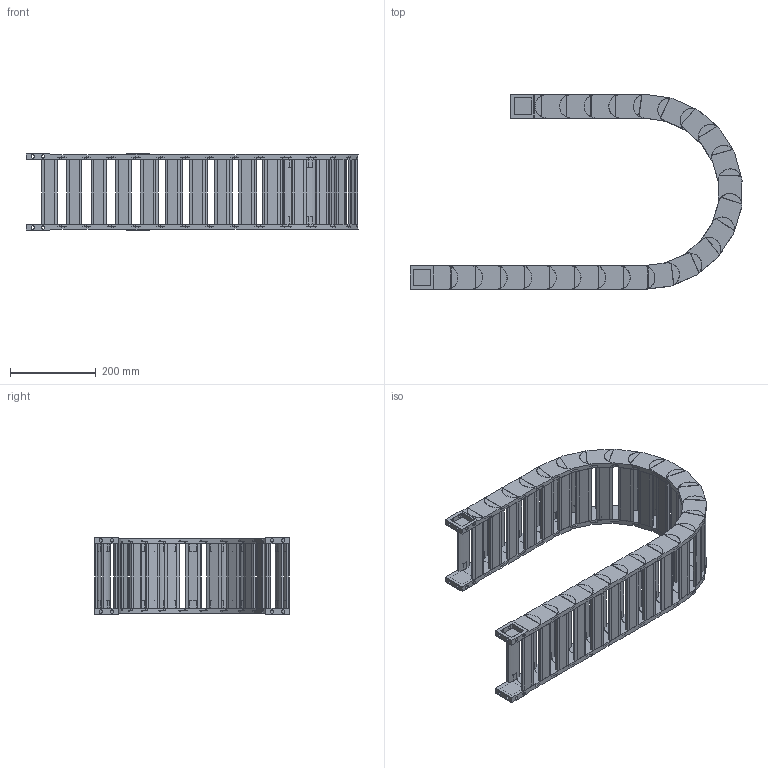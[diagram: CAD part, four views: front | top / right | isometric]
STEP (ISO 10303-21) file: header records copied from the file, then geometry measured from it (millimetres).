
FILE_DESCRIPTION((''),'2;1');
FILE_NAME('HD35-R200-ZPT_ASM','2022-06-17T14:08:54',('admin'),(''),'CREO PARAMETRIC BY PTC INC, 2021164','CREO PARAMETRIC BY PTC INC, 2021164','');
FILE_SCHEMA(('CONFIG_CONTROL_DESIGN','GEOMETRIC_VALIDATION_PROPERTIES_MIM'));
Length unit declared in the file: millimetre
Products named in the file (6): HD35; 35-600001; HD35_ASM; 35-TL_11; 35-WL; HD35-R200-ZPT_ASM
Assembly tree (29 placements, depth 3):
  HD35-R200-ZPT_ASM
    HD35_ASM  x23
      HD35
      35-600001
    35-TL_11
    35-WL
    35-600001  x2
Bounding box: 775.24 x 454.93 x 178.3 mm (x, y, z)
Volume: 4214804.4 mm3; surface area: 1451348.9 mm2
Topology: 100 solids, 100 shells, 1858 faces, 4946 edges, 3392 vertices
Faces by surface type: plane 1268, cylinder 590
Entity records: 9467 total; most frequent: DIRECTION 1432, CARTESIAN_POINT 1422, ORIENTED_EDGE 1300, EDGE_CURVE 650, AXIS2_PLACEMENT_3D 511, VERTEX_POINT 440, VECTOR 410, LINE 410
